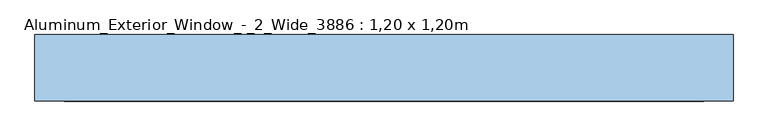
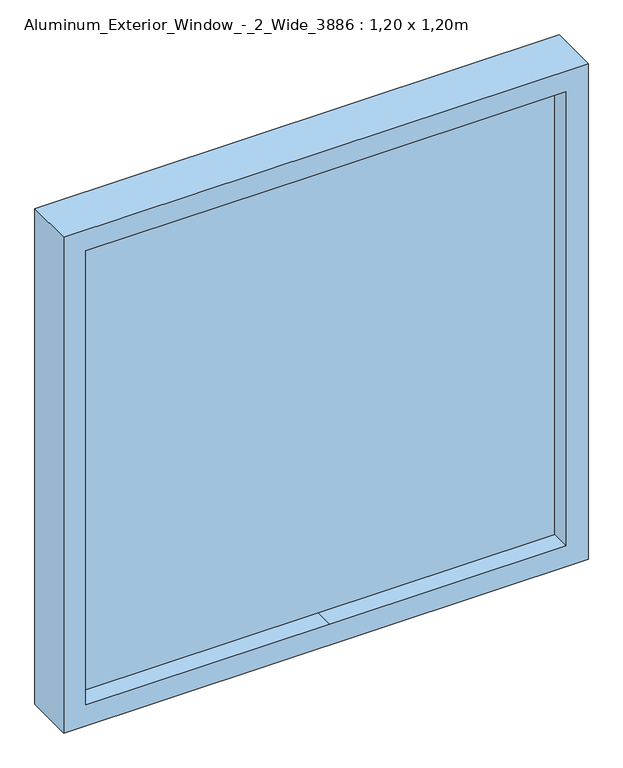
"""IFC4 building model written with IfcOpenShell, lengths in millimetres: window geometry, Aluminum_Exterior_Window_-_2_Wide_3886 : 1,20 x 1,20m."""

from ifc_helpers import new_model, si_unit, frame, origin, place, context, project, spatial, polyline, outline, extrude, source, transform, mapped, element, save


def aluminum_exterior_window_2_wide_3886_1_20_x_1_20m_544ea9df(model_context):
    return source(origin(), model_context, "Body", "SweptSolid", [
        extrude(outline(polyline([(2216.0, -1371.6), (1016.0, -1371.6), (1016.0, -171.6), (2216.0, -171.6), (2216.0, -1371.6)]), holes=[polyline([(2165.2, -797.0), (2165.2, -222.4), (1066.8, -222.4), (1066.8, -763.8808837), (1066.8, -1320.8), (2165.2, -1320.8), (2165.2, -797.0)])]), frame((0.0, -38.1424754, 0.0), z_axis=(0.0, 1.0, 0.0), x_axis=(0.0, 0.0, 1.0)), (0.0, 0.0, 1.0), 114.3),
        extrude(outline(polyline([(2165.2, -797.0), (2165.2, -1320.8), (1066.8, -1320.8), (1066.8, -770.891469), (1066.8, -222.4), (2165.2, -222.4), (2165.2, -797.0)])), frame((0.0, 6.3075246, 0.0), z_axis=(0.0, 1.0, 0.0), x_axis=(0.0, 0.0, 1.0)), (0.0, 0.0, 1.0), 25.4),
    ])


if __name__ == "__main__":
    model = new_model("IFC4")
    model_context = context("Model", 3, world=origin())
    ifc_project = project(units=[si_unit("LENGTHUNIT", "METRE", prefix="MILLI")], contexts=[model_context])
    site = spatial("IfcSite", under=ifc_project)
    building = spatial("IfcBuilding", under=site)
    placement = place(None, origin())
    aluminum_exterior_window_2_wide_3886_1_20_x_1_20m_shape = aluminum_exterior_window_2_wide_3886_1_20_x_1_20m_544ea9df(model_context)
    element("IfcWindow", 1, ObjectType="Aluminum_Exterior_Window_-_2_Wide_3886 : 1,20 x 1,20m", at=placement, inside=building, context=model_context, shape_type="MappedRepresentation", body=[
        mapped(aluminum_exterior_window_2_wide_3886_1_20_x_1_20m_shape, transform((0.0, 0.0, 0.0), x_axis=(1.0, 0.0, 0.0), y_axis=(0.0, 1.0, 0.0), z_axis=(0.0, 0.0, 1.0))),
    ])
    save(model, "model.ifc")
